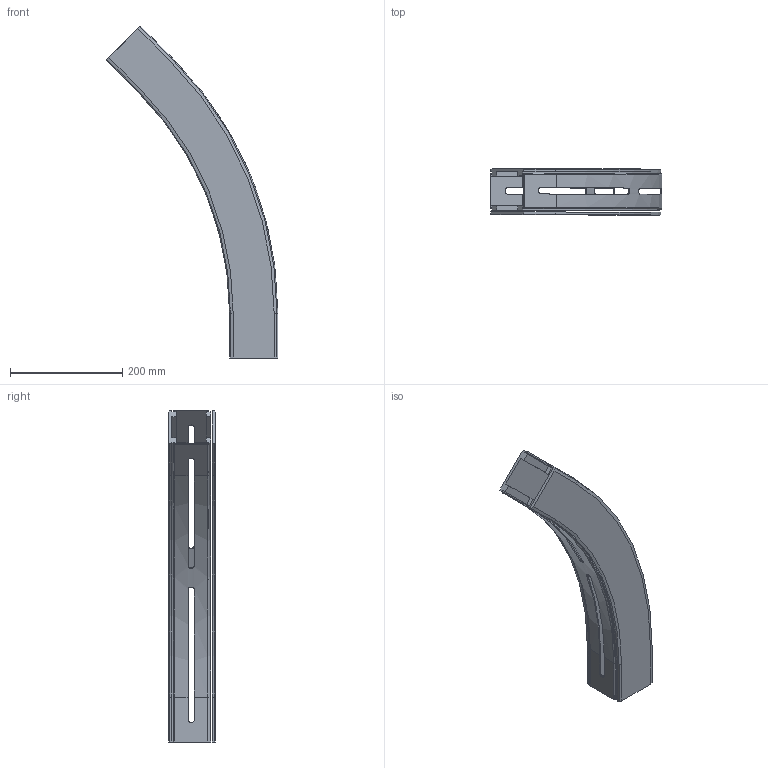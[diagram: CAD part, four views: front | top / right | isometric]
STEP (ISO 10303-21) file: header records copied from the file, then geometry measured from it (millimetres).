
FILE_DESCRIPTION((''),'2;1');
FILE_NAME('C:\Vault Klient\Projekt\Koncept konstruktion\Serie 530 Balk\530-5350.stp','2010-12-01T08:21:18',('Mathias'),(''),'Autodesk Inventor 2011','Autodesk Inventor 2011','');
FILE_SCHEMA(('AUTOMOTIVE_DESIGN { 1 0 10303 214 1 1 1 1 }'));
Length unit declared in the file: millimetre
Products named in the file (1): 530-5350
Bounding box: 305.71 x 82 x 591.24 mm (x, y, z)
Volume: 914352.5 mm3; surface area: 438331 mm2
Topology: 2 solids, 2 shells, 159 faces, 458 edges, 300 vertices
Faces by surface type: plane 101, cylinder 32, bspline 18, cone 4, torus 4
Entity records: 5554 total; most frequent: CARTESIAN_POINT 1324, ORIENTED_EDGE 916, DIRECTION 794, EDGE_CURVE 458, VECTOR 334, LINE 334, VERTEX_POINT 300, AXIS2_PLACEMENT_3D 230
